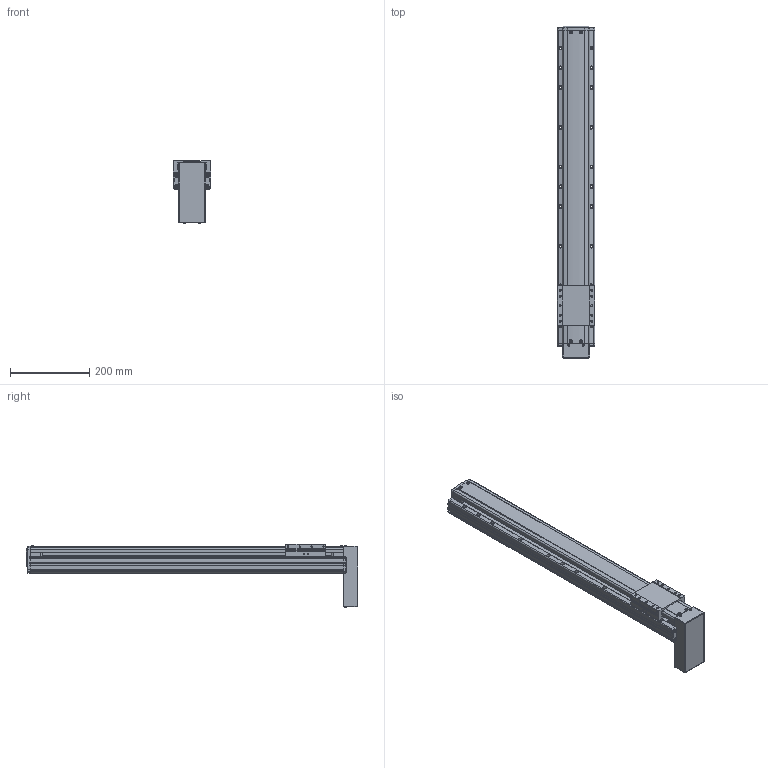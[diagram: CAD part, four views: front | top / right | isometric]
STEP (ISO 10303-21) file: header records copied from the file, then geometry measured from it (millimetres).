
FILE_DESCRIPTION(('STEP AP214'),'1');
FILE_NAME('Z:/Web/3D/PSA95/STP/PSA95-600 (3D)/PSA95ㅁㅁ-600PB.stp','2014-07-03T00:44:31',(' '),(' '),'Spatial InterOp 3D',' ',' ');
FILE_SCHEMA(('automotive_design'));
Length unit declared in the file: millimetre
Products named in the file (29): BASE; RRCV; 스크루 : Round - M4.0 x 10.0; 너트 : Square - M10.0 x 220.7419; RR1500; FRCV-090; 스크루 : Round - M4.0 x 6.0; SLBL-PA90; MTPL COVER; 스크루 : Round - M3.0 x 6.0; 1; 2
Bounding box: 95.1 x 837.5 x 159.57 mm (x, y, z)
Volume: 4700357.3 mm3; surface area: 481315.5 mm2
Topology: 29 solids, 29 shells, 2057 faces, 5485 edges, 3491 vertices
Faces by surface type: plane 1134, cylinder 621, cone 214, sphere 50, bspline 24, torus 14
Entity records: 82624 total; most frequent: CARTESIAN_POINT 14085, DIRECTION 10880, ORIENTED_EDGE 10698, EDGE_CURVE 5349, AXIS2_PLACEMENT_3D 3640, LINE 3600, VECTOR 3600, VERTEX_POINT 3491
